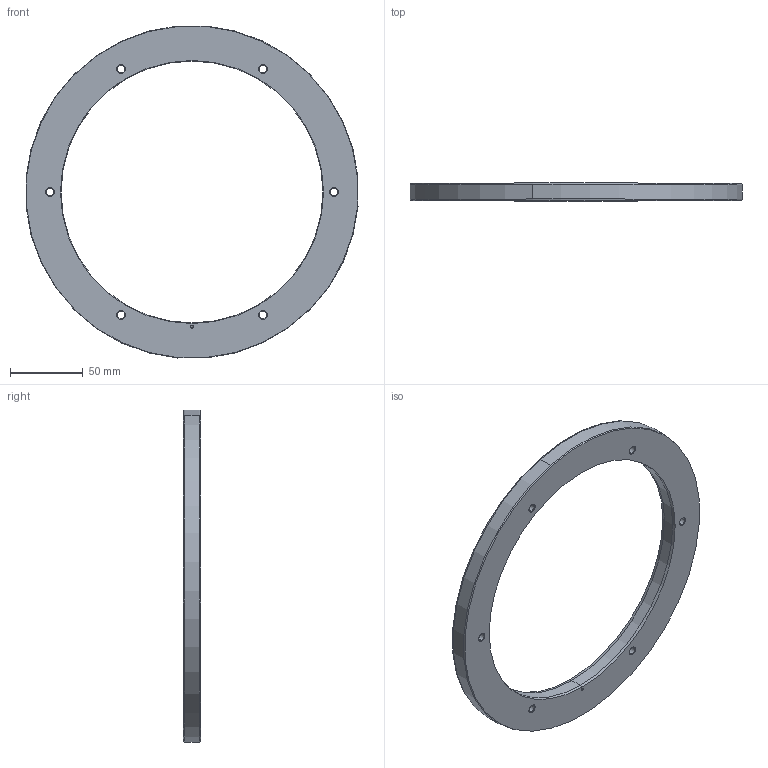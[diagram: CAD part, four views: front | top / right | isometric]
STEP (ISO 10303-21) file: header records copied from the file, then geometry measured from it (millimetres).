
FILE_DESCRIPTION (( 'STEP AP214' ), '1' );
FILE_NAME ('SAR229.STEP', '2023-04-21T13:13:45', ( '' ), ( '' ), 'SwSTEP 2.0', 'SolidWorks 2020', '' );
FILE_SCHEMA (( 'AUTOMOTIVE_DESIGN' ));
Length unit declared in the file: millimetre
Products named in the file (1): SAR229
Bounding box: 228.12 x 12 x 228.12 mm (x, y, z)
Volume: 183931.1 mm3; surface area: 47753.3 mm2
Topology: 1 solids, 1 shells, 565 faces, 1509 edges, 992 vertices
Faces by surface type: plane 373, bspline 109, cylinder 47, cone 36
Entity records: 23143 total; most frequent: CARTESIAN_POINT 8644, ORIENTED_EDGE 3010, DIRECTION 2327, EDGE_CURVE 1505, LINE 1161, VECTOR 1161, VERTEX_POINT 992, EDGE_LOOP 629
